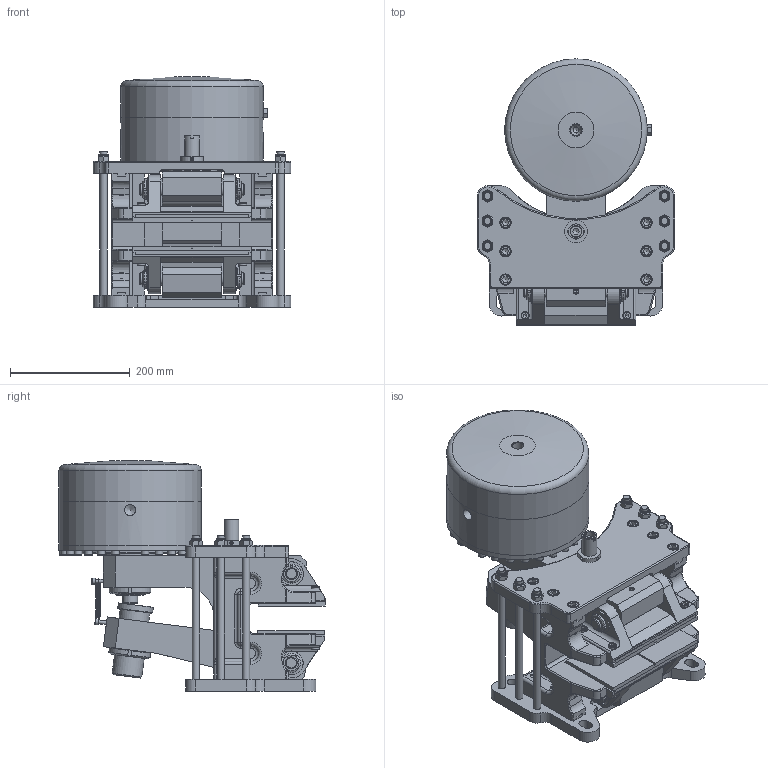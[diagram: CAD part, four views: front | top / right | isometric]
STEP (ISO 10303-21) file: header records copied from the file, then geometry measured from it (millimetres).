
FILE_DESCRIPTION(/* description */ ('','CAx-IF Rec.Pracs.---Representation and Presentation of Product Manufacturing Information (PMI)---4.0---2014-10-13'),/* implementation_level */ '2;1');
FILE_NAME(/* name */ 'X:\INVENTOR\DISEGNI\19_Pinze\STEP x Sito\PNEUM-POSITIVE\19_16_700_06 PPTP700_40.stp',/* time_stamp */ '2018-10-29T08:57:44+01:00',/* author */ ('stefano'),/* organization */ (''),/* preprocessor_version */ 'ST-DEVELOPER v17',/* originating_system */ 'Autodesk Inventor 2018',/* authorisation */ '');
FILE_SCHEMA (('AP242_MANAGED_MODEL_BASED_3D_ENGINEERING_MIM_LF { 1 0 10303 442 1 1 4 }'));
Length unit declared in the file: millimetre
Products named in the file (1): 19_16_700_06 PPTP700_40_Substitute_3
Bounding box: 330.02 x 445 x 385.6 mm (x, y, z)
Volume: 14531118.4 mm3; surface area: 1298771.7 mm2
Topology: 1 solids, 1 shells, 1804 faces, 4940 edges, 3272 vertices
Faces by surface type: plane 947, cylinder 447, cone 198, torus 176, bspline 24, sphere 12
Full cylindrical faces by diameter (mm): 1.2 x2, 3 x1, 5 x2, 5.188 x7, 5.25 x4, 6 x2, 6.3 x6, 6.647 x2, 8 x6, 8.376 x1, 8.5 x8, 8.917 x1, 9.188 x1, 10 x4, 10.106 x19, 11.445 x2, 12 x26, 12.5 x18, 13 x33, 13.5 x8, 14 x1, 15.3 x6, 17 x2, 18 x14, 18.631 x2, 19 x12, 19.5 x1, 20 x13, 22 x6, 25 x12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
Entity records: 66168 total; most frequent: CARTESIAN_POINT 19216, ORIENTED_EDGE 9752, DIRECTION 9530, EDGE_CURVE 4876, AXIS2_PLACEMENT_3D 3637, VERTEX_POINT 3272, LINE 2256, VECTOR 2256
